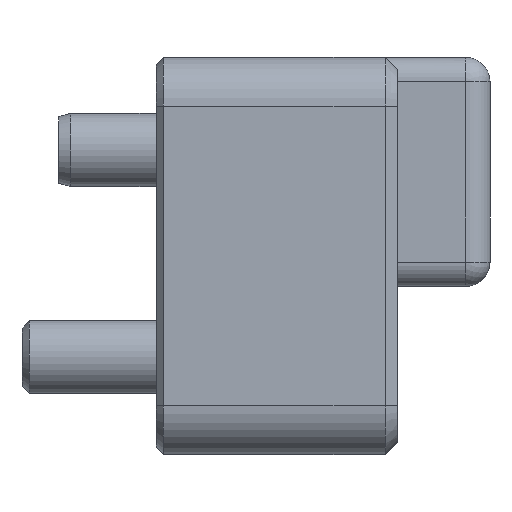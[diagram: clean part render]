
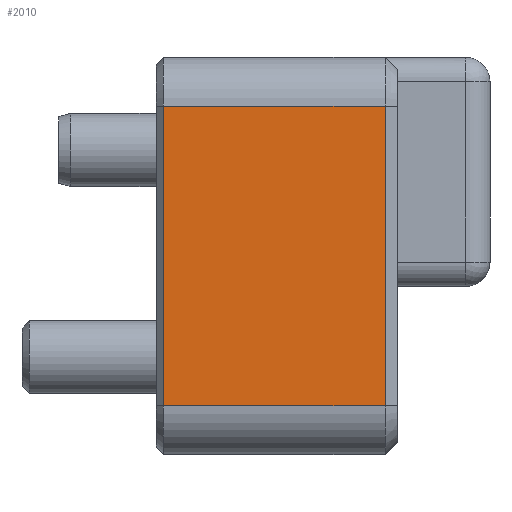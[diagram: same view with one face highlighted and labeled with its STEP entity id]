
A CAD part, left-side view. The second image highlights one B-rep face of the part: STEP entity #2010.
In plain terms, the highlighted planar face has unit normal (-1, 0, 0).
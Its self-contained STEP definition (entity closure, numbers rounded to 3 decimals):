
#106=PLANE('',#2237);
#224=FACE_OUTER_BOUND('',#353,.T.);
#353=EDGE_LOOP('',(#1634,#1635,#1636,#1637));
#445=LINE('',#3159,#598);
#482=LINE('',#3320,#635);
#522=LINE('',#3406,#675);
#523=LINE('',#3408,#676);
#598=VECTOR('',#2539,10.);
#635=VECTOR('',#2670,10.);
#675=VECTOR('',#2756,10.);
#676=VECTOR('',#2759,10.);
#879=VERTEX_POINT('',#3151);
#881=VERTEX_POINT('',#3157);
#924=VERTEX_POINT('',#3310);
#926=VERTEX_POINT('',#3316);
#1082=EDGE_CURVE('',#881,#879,#445,.T.);
#1149=EDGE_CURVE('',#924,#926,#482,.T.);
#1195=EDGE_CURVE('',#926,#881,#522,.T.);
#1196=EDGE_CURVE('',#879,#924,#523,.T.);
#1634=ORIENTED_EDGE('',*,*,#1082,.F.);
#1635=ORIENTED_EDGE('',*,*,#1195,.F.);
#1636=ORIENTED_EDGE('',*,*,#1149,.F.);
#1637=ORIENTED_EDGE('',*,*,#1196,.F.);
#2010=ADVANCED_FACE('',(#224),#106,.T.);
#2237=AXIS2_PLACEMENT_3D('',#3407,#2757,#2758);
#2539=DIRECTION('',(0.,0.,-1.));
#2670=DIRECTION('',(0.,0.,1.));
#2756=DIRECTION('',(0.,-1.,0.));
#2757=DIRECTION('center_axis',(-1.,0.,0.));
#2758=DIRECTION('ref_axis',(0.,-1.,0.));
#2759=DIRECTION('',(0.,1.,0.));
#3151=CARTESIAN_POINT('',(-18.5,-3.9,2.));
#3157=CARTESIAN_POINT('',(-18.5,-3.9,14.3));
#3159=CARTESIAN_POINT('',(-18.5,-3.9,0.));
#3310=CARTESIAN_POINT('',(-18.5,5.2,2.));
#3316=CARTESIAN_POINT('',(-18.5,5.2,14.3));
#3320=CARTESIAN_POINT('',(-18.5,5.2,0.));
#3406=CARTESIAN_POINT('',(-18.5,2.025,14.3));
#3407=CARTESIAN_POINT('Origin',(-18.5,5.5,0.));
#3408=CARTESIAN_POINT('',(-18.5,2.025,2.));
